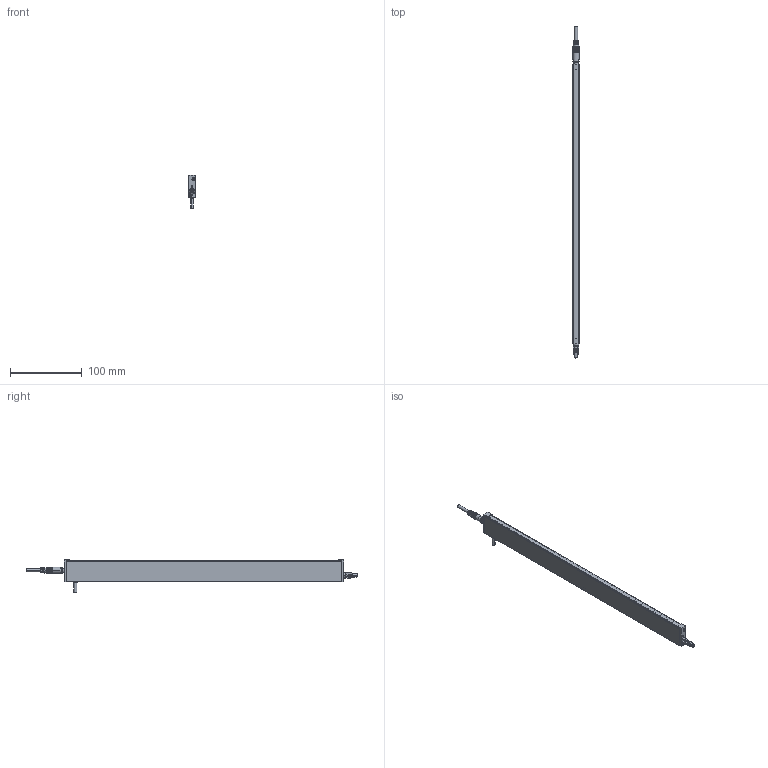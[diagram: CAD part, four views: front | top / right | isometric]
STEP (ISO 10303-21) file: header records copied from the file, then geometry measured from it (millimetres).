
FILE_DESCRIPTION (( 'STEP AP214' ), '1' );
FILE_NAME ('ILG-B-K2-0388mm.STEP', '2017-07-10T12:40:28', ( '' ), ( '' ), 'SwSTEP 2.0', 'SolidWorks 2016', '' );
FILE_SCHEMA (( 'AUTOMOTIVE_DESIGN' ));
Length unit declared in the file: millimetre
Products named in the file (1): ILG-B-K2-0388mm
Bounding box: 9 x 461.5 x 46.21 mm (x, y, z)
Surface area: 69316.9 mm2 (no closed solid volume)
Topology: 0 solids, 14 shells, 693 faces, 1806 edges, 1147 vertices
Faces by surface type: cylinder 283, plane 263, cone 97, bspline 32, torus 18
Entity records: 31061 total; most frequent: CARTESIAN_POINT 6596, ORIENTED_EDGE 3565, DIRECTION 3444, EDGE_CURVE 1790, AXIS2_PLACEMENT_3D 1323, VERTEX_POINT 1147, VECTOR 798, LINE 798
